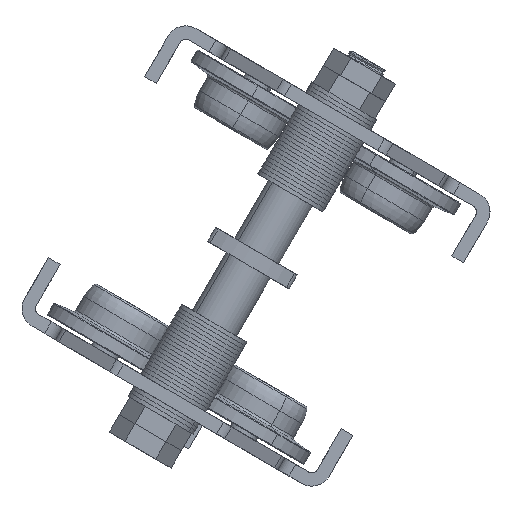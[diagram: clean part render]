
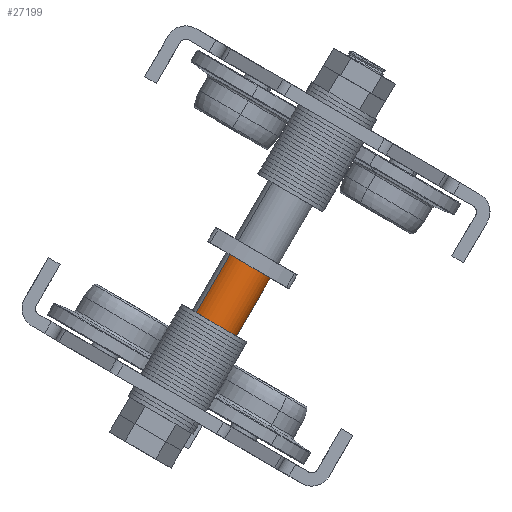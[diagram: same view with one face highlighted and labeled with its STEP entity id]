
A CAD part, front view. The second image highlights one B-rep face of the part: STEP entity #27199.
In plain terms, the highlighted cylindrical face has radius 19 mm (diameter 38 mm), a partial arc.
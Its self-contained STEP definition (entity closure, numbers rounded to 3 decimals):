
#556 = VERTEX_POINT ( 'NONE', #1531 ) ;
#1262 = EDGE_LOOP ( 'NONE', ( #30086, #25160, #4056, #22731 ) ) ;
#1531 = CARTESIAN_POINT ( 'NONE',  ( 19., 0., 50. ) ) ;
#2225 = EDGE_CURVE ( 'NONE', #556, #21686, #26848, .T. ) ;
#2993 = FACE_OUTER_BOUND ( 'NONE', #1262, .T. ) ;
#3329 = EDGE_CURVE ( 'NONE', #6211, #10587, #16319, .T. ) ;
#3488 = CARTESIAN_POINT ( 'NONE',  ( 0., 0., 0. ) ) ;
#3718 = CARTESIAN_POINT ( 'NONE',  ( 19., 0., 0. ) ) ;
#4056 = ORIENTED_EDGE ( 'NONE', *, *, #3329, .T. ) ;
#4072 = EDGE_CURVE ( 'NONE', #21686, #10587, #22956, .T. ) ;
#4634 = VECTOR ( 'NONE', #14303, 1000. ) ;
#4659 = CARTESIAN_POINT ( 'NONE',  ( 19., 0., 50. ) ) ;
#5752 = CARTESIAN_POINT ( 'NONE',  ( -19., 0., 50. ) ) ;
#6111 = DIRECTION ( 'NONE',  ( 1., 0., 0. ) ) ;
#6211 = VERTEX_POINT ( 'NONE', #3718 ) ;
#6799 = CARTESIAN_POINT ( 'NONE',  ( -19., 0., 0. ) ) ;
#8386 = DIRECTION ( 'NONE',  ( 1., 0., 0. ) ) ;
#9062 = VECTOR ( 'NONE', #14272, 1000. ) ;
#9913 = CARTESIAN_POINT ( 'NONE',  ( -19., 0., 50. ) ) ;
#10587 = VERTEX_POINT ( 'NONE', #6799 ) ;
#11775 = DIRECTION ( 'NONE',  ( -1., 0., 0. ) ) ;
#12869 = CYLINDRICAL_SURFACE ( 'NONE', #13011, 19. ) ;
#13011 = AXIS2_PLACEMENT_3D ( 'NONE', #21107, #23266, #11775 ) ;
#14272 = DIRECTION ( 'NONE',  ( 0., 0., -1. ) ) ;
#14303 = DIRECTION ( 'NONE',  ( 0., 0., -1. ) ) ;
#15315 = DIRECTION ( 'NONE',  ( 0., 0., 1. ) ) ;
#16319 = CIRCLE ( 'NONE', #25384, 19. ) ;
#18377 = EDGE_CURVE ( 'NONE', #556, #6211, #30353, .T. ) ;
#19953 = DIRECTION ( 'NONE',  ( 0., 0., 1. ) ) ;
#21107 = CARTESIAN_POINT ( 'NONE',  ( 0., 0., 50. ) ) ;
#21686 = VERTEX_POINT ( 'NONE', #5752 ) ;
#22588 = CARTESIAN_POINT ( 'NONE',  ( 0., 0., 50. ) ) ;
#22731 = ORIENTED_EDGE ( 'NONE', *, *, #4072, .F. ) ;
#22956 = LINE ( 'NONE', #9913, #4634 ) ;
#23266 = DIRECTION ( 'NONE',  ( 0., 0., -1. ) ) ;
#24004 = AXIS2_PLACEMENT_3D ( 'NONE', #22588, #15315, #6111 ) ;
#25160 = ORIENTED_EDGE ( 'NONE', *, *, #18377, .T. ) ;
#25384 = AXIS2_PLACEMENT_3D ( 'NONE', #3488, #19953, #8386 ) ;
#26848 = CIRCLE ( 'NONE', #24004, 19. ) ;
#27199 = ADVANCED_FACE ( 'NONE', ( #2993 ), #12869, .T. ) ;
#30086 = ORIENTED_EDGE ( 'NONE', *, *, #2225, .F. ) ;
#30353 = LINE ( 'NONE', #4659, #9062 ) ;
